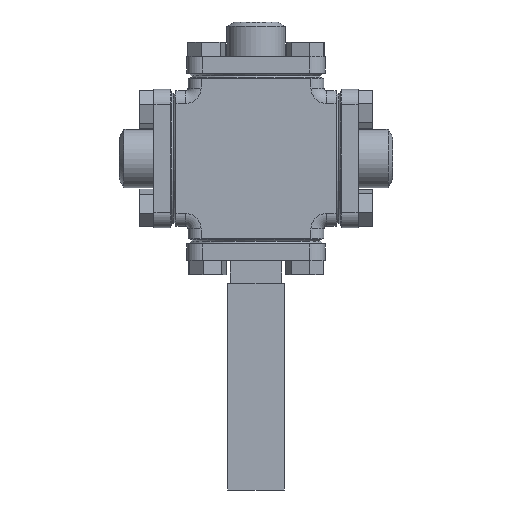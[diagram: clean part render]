
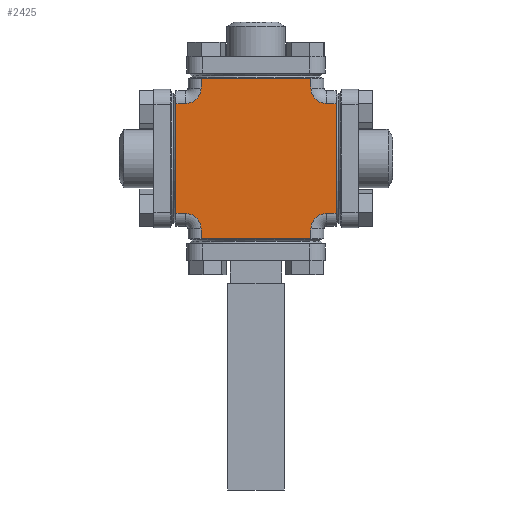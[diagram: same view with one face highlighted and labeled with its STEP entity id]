
A CAD part, front view. The second image highlights one B-rep face of the part: STEP entity #2425.
In plain terms, the highlighted planar face has unit normal (0, -1, 0).
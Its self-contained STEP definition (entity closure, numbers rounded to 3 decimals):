
#943 = DIRECTION ( 'NONE',  ( 0., 0., 1. ) ) ;
#970 = CARTESIAN_POINT ( 'NONE',  ( -31., -26.25, -26.25 ) ) ;
#982 = CARTESIAN_POINT ( 'NONE',  ( 26.25, -26.25, -31. ) ) ;
#992 = DIRECTION ( 'NONE',  ( -1., 0., 0. ) ) ;
#998 = CARTESIAN_POINT ( 'NONE',  ( -26.25, -26.25, 31. ) ) ;
#1003 = DIRECTION ( 'NONE',  ( 1., 0., 0. ) ) ;
#1026 = CARTESIAN_POINT ( 'NONE',  ( 31., -26.25, 21.25 ) ) ;
#1030 = DIRECTION ( 'NONE',  ( -1., 0., 0. ) ) ;
#1133 = EDGE_CURVE ( 'NONE', #11135, #11136, #4149, .T. ) ;
#1141 = EDGE_CURVE ( 'NONE', #11143, #11146, #4170, .T. ) ;
#1149 = EDGE_CURVE ( 'NONE', #11167, #11168, #4183, .T. ) ;
#1159 = EDGE_CURVE ( 'NONE', #11217, #11146, #4207, .T. ) ;
#1165 = EDGE_CURVE ( 'NONE', #11197, #11200, #4211, .T. ) ;
#1168 = EDGE_CURVE ( 'NONE', #11221, #11136, #4221, .T. ) ;
#1169 = EDGE_CURVE ( 'NONE', #11211, #11217, #4225, .T. ) ;
#1170 = EDGE_CURVE ( 'NONE', #11204, #11168, #4216, .T. ) ;
#1171 = EDGE_CURVE ( 'NONE', #11203, #11204, #4227, .T. ) ;
#1172 = EDGE_CURVE ( 'NONE', #11167, #11211, #4219, .T. ) ;
#1173 = EDGE_CURVE ( 'NONE', #11143, #11219, #4228, .T. ) ;
#1174 = EDGE_CURVE ( 'NONE', #11226, #11200, #4230, .T. ) ;
#1175 = EDGE_CURVE ( 'NONE', #11219, #11221, #4234, .T. ) ;
#1176 = EDGE_CURVE ( 'NONE', #11135, #11222, #4223, .T. ) ;
#1178 = EDGE_CURVE ( 'NONE', #11222, #11226, #4239, .T. ) ;
#1179 = EDGE_CURVE ( 'NONE', #11197, #11203, #4232, .T. ) ;
#1381 = AXIS2_PLACEMENT_3D ( 'NONE', #3727, #3678, #3681 ) ;
#1385 = AXIS2_PLACEMENT_3D ( 'NONE', #3704, #3696, #3723 ) ;
#1386 = AXIS2_PLACEMENT_3D ( 'NONE', #3715, #3724, #3730 ) ;
#1387 = AXIS2_PLACEMENT_3D ( 'NONE', #3701, #3728, #3725 ) ;
#2425 = ADVANCED_FACE ( 'NONE', ( #8316 ), #8676, .F. ) ;
#2630 = ORIENTED_EDGE ( 'NONE', *, *, #1179, .T. ) ;
#3678 = DIRECTION ( 'NONE',  ( 0., 1., 0. ) ) ;
#3679 = DIRECTION ( 'NONE',  ( -1., 0., 0. ) ) ;
#3680 = CARTESIAN_POINT ( 'NONE',  ( 31., -26.25, 21.25 ) ) ;
#3681 = DIRECTION ( 'NONE',  ( 0., 0., 1. ) ) ;
#3696 = DIRECTION ( 'NONE',  ( 0., 1., 0. ) ) ;
#3699 = CARTESIAN_POINT ( 'NONE',  ( 31., -26.25, -21.25 ) ) ;
#3700 = DIRECTION ( 'NONE',  ( 0., 0., -1. ) ) ;
#3701 = CARTESIAN_POINT ( 'NONE',  ( -27.25, -26.25, -27.25 ) ) ;
#3702 = DIRECTION ( 'NONE',  ( 0., 0., 1. ) ) ;
#3703 = DIRECTION ( 'NONE',  ( 0., 0., 1. ) ) ;
#3704 = CARTESIAN_POINT ( 'NONE',  ( -27.25, -26.25, 27.25 ) ) ;
#3705 = CARTESIAN_POINT ( 'NONE',  ( 21.25, -26.25, 26.25 ) ) ;
#3715 = CARTESIAN_POINT ( 'NONE',  ( 27.25, -26.25, 27.25 ) ) ;
#3716 = CARTESIAN_POINT ( 'NONE',  ( 21.25, -26.25, 26.25 ) ) ;
#3720 = CARTESIAN_POINT ( 'NONE',  ( -21.25, -26.25, 26.25 ) ) ;
#3721 = DIRECTION ( 'NONE',  ( 0., 0., -1. ) ) ;
#3722 = CARTESIAN_POINT ( 'NONE',  ( 31., -26.25, 26.25 ) ) ;
#3723 = DIRECTION ( 'NONE',  ( 0., 0., 1. ) ) ;
#3724 = DIRECTION ( 'NONE',  ( 0., 1., 0. ) ) ;
#3725 = DIRECTION ( 'NONE',  ( 0., 0., 1. ) ) ;
#3727 = CARTESIAN_POINT ( 'NONE',  ( 27.25, -26.25, -27.25 ) ) ;
#3728 = DIRECTION ( 'NONE',  ( 0., 1., 0. ) ) ;
#3729 = DIRECTION ( 'NONE',  ( 1., 0., 0. ) ) ;
#3730 = DIRECTION ( 'NONE',  ( 0., 0., 1. ) ) ;
#3731 = CARTESIAN_POINT ( 'NONE',  ( -21.25, -26.25, 26.25 ) ) ;
#3732 = DIRECTION ( 'NONE',  ( 0., 0., -1. ) ) ;
#3733 = CARTESIAN_POINT ( 'NONE',  ( 31., -26.25, -21.25 ) ) ;
#3734 = DIRECTION ( 'NONE',  ( 1., 0., 0. ) ) ;
#4149 = LINE ( 'NONE', #982, #4160 ) ;
#4160 = VECTOR ( 'NONE', #992, 1000. ) ;
#4170 = LINE ( 'NONE', #970, #4176 ) ;
#4176 = VECTOR ( 'NONE', #943, 1000. ) ;
#4183 = LINE ( 'NONE', #998, #4188 ) ;
#4188 = VECTOR ( 'NONE', #1003, 1000. ) ;
#4199 = VECTOR ( 'NONE', #3700, 1000. ) ;
#4207 = LINE ( 'NONE', #1026, #4208 ) ;
#4208 = VECTOR ( 'NONE', #1030, 1000. ) ;
#4211 = LINE ( 'NONE', #3722, #4214 ) ;
#4214 = VECTOR ( 'NONE', #3721, 1000. ) ;
#4216 = LINE ( 'NONE', #3716, #4218 ) ;
#4218 = VECTOR ( 'NONE', #3703, 1000. ) ;
#4219 = LINE ( 'NONE', #3731, #4224 ) ;
#4221 = LINE ( 'NONE', #3720, #4199 ) ;
#4223 = LINE ( 'NONE', #3705, #4226 ) ;
#4224 = VECTOR ( 'NONE', #3732, 1000. ) ;
#4225 = CIRCLE ( 'NONE', #1385, 6. ) ;
#4226 = VECTOR ( 'NONE', #3702, 1000. ) ;
#4227 = CIRCLE ( 'NONE', #1386, 6. ) ;
#4228 = LINE ( 'NONE', #3699, #4229 ) ;
#4229 = VECTOR ( 'NONE', #3729, 1000. ) ;
#4230 = LINE ( 'NONE', #3733, #4231 ) ;
#4231 = VECTOR ( 'NONE', #3734, 1000. ) ;
#4232 = LINE ( 'NONE', #3680, #4236 ) ;
#4234 = CIRCLE ( 'NONE', #1387, 6. ) ;
#4236 = VECTOR ( 'NONE', #3679, 1000. ) ;
#4239 = CIRCLE ( 'NONE', #1381, 6. ) ;
#5179 = AXIS2_PLACEMENT_3D ( 'NONE', #8677, #8687, #8688 ) ;
#8316 = FACE_OUTER_BOUND ( 'NONE', #10318, .T. ) ;
#8676 = PLANE ( 'NONE',  #5179 ) ;
#8677 = CARTESIAN_POINT ( 'NONE',  ( 31., -26.25, 26.25 ) ) ;
#8687 = DIRECTION ( 'NONE',  ( 0., 1., 0. ) ) ;
#8688 = DIRECTION ( 'NONE',  ( 0., 0., 1. ) ) ;
#9535 = CARTESIAN_POINT ( 'NONE',  ( 21.25, -26.25, -31. ) ) ;
#9536 = CARTESIAN_POINT ( 'NONE',  ( -21.25, -26.25, -31. ) ) ;
#9543 = CARTESIAN_POINT ( 'NONE',  ( -31., -26.25, -21.25 ) ) ;
#9546 = CARTESIAN_POINT ( 'NONE',  ( -31., -26.25, 21.25 ) ) ;
#9567 = CARTESIAN_POINT ( 'NONE',  ( -21.25, -26.25, 31. ) ) ;
#9568 = CARTESIAN_POINT ( 'NONE',  ( 21.25, -26.25, 31. ) ) ;
#9591 = CARTESIAN_POINT ( 'NONE',  ( 31., -26.25, 21.25 ) ) ;
#9593 = CARTESIAN_POINT ( 'NONE',  ( 31., -26.25, -21.25 ) ) ;
#9596 = CARTESIAN_POINT ( 'NONE',  ( 27.25, -26.25, 21.25 ) ) ;
#9597 = CARTESIAN_POINT ( 'NONE',  ( 21.25, -26.25, 27.25 ) ) ;
#9598 = CARTESIAN_POINT ( 'NONE',  ( -21.25, -26.25, 27.25 ) ) ;
#9600 = CARTESIAN_POINT ( 'NONE',  ( -27.25, -26.25, 21.25 ) ) ;
#9601 = CARTESIAN_POINT ( 'NONE',  ( -27.25, -26.25, -21.25 ) ) ;
#9602 = CARTESIAN_POINT ( 'NONE',  ( -21.25, -26.25, -27.25 ) ) ;
#9603 = CARTESIAN_POINT ( 'NONE',  ( 21.25, -26.25, -27.25 ) ) ;
#9605 = CARTESIAN_POINT ( 'NONE',  ( 27.25, -26.25, -21.25 ) ) ;
#10318 = EDGE_LOOP ( 'NONE', ( #13015, #13017, #13040, #12963, #13042, #13041, #12972, #13044, #12975, #12964, #13043, #12976, #12954, #12970, #13034, #2630 ) ) ;
#11135 = VERTEX_POINT ( 'NONE', #9535 ) ;
#11136 = VERTEX_POINT ( 'NONE', #9536 ) ;
#11143 = VERTEX_POINT ( 'NONE', #9543 ) ;
#11146 = VERTEX_POINT ( 'NONE', #9546 ) ;
#11167 = VERTEX_POINT ( 'NONE', #9567 ) ;
#11168 = VERTEX_POINT ( 'NONE', #9568 ) ;
#11197 = VERTEX_POINT ( 'NONE', #9591 ) ;
#11200 = VERTEX_POINT ( 'NONE', #9593 ) ;
#11203 = VERTEX_POINT ( 'NONE', #9596 ) ;
#11204 = VERTEX_POINT ( 'NONE', #9597 ) ;
#11211 = VERTEX_POINT ( 'NONE', #9598 ) ;
#11217 = VERTEX_POINT ( 'NONE', #9600 ) ;
#11219 = VERTEX_POINT ( 'NONE', #9601 ) ;
#11221 = VERTEX_POINT ( 'NONE', #9602 ) ;
#11222 = VERTEX_POINT ( 'NONE', #9603 ) ;
#11226 = VERTEX_POINT ( 'NONE', #9605 ) ;
#12954 = ORIENTED_EDGE ( 'NONE', *, *, #1178, .T. ) ;
#12963 = ORIENTED_EDGE ( 'NONE', *, *, #1172, .T. ) ;
#12964 = ORIENTED_EDGE ( 'NONE', *, *, #1168, .T. ) ;
#12970 = ORIENTED_EDGE ( 'NONE', *, *, #1174, .T. ) ;
#12972 = ORIENTED_EDGE ( 'NONE', *, *, #1141, .F. ) ;
#12975 = ORIENTED_EDGE ( 'NONE', *, *, #1175, .T. ) ;
#12976 = ORIENTED_EDGE ( 'NONE', *, *, #1176, .T. ) ;
#13015 = ORIENTED_EDGE ( 'NONE', *, *, #1171, .T. ) ;
#13017 = ORIENTED_EDGE ( 'NONE', *, *, #1170, .T. ) ;
#13034 = ORIENTED_EDGE ( 'NONE', *, *, #1165, .F. ) ;
#13040 = ORIENTED_EDGE ( 'NONE', *, *, #1149, .F. ) ;
#13041 = ORIENTED_EDGE ( 'NONE', *, *, #1159, .T. ) ;
#13042 = ORIENTED_EDGE ( 'NONE', *, *, #1169, .T. ) ;
#13043 = ORIENTED_EDGE ( 'NONE', *, *, #1133, .F. ) ;
#13044 = ORIENTED_EDGE ( 'NONE', *, *, #1173, .T. ) ;
